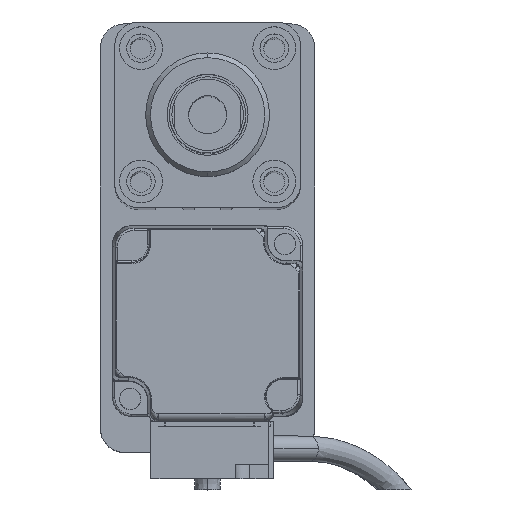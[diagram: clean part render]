
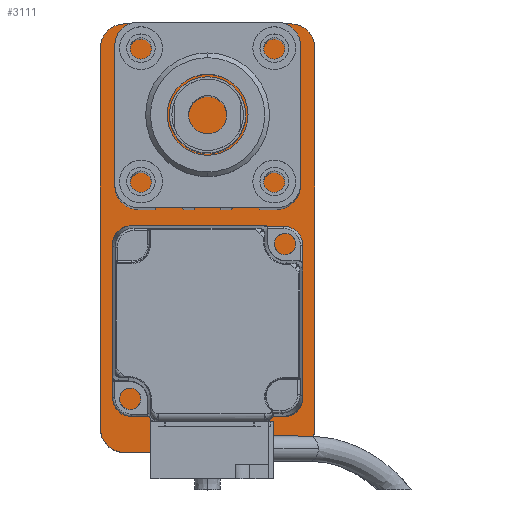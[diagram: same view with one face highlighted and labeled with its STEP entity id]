
A CAD part, top view. The second image highlights one B-rep face of the part: STEP entity #3111.
In plain terms, the highlighted planar face has unit normal (0, 0, 1).
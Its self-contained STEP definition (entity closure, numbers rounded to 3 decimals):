
#134 = AXIS2_PLACEMENT_3D ( 'NONE', #3558, #1413, #6197 ) ;
#794 = CIRCLE ( 'NONE', #134, 5. ) ;
#1098 = ORIENTED_EDGE ( 'NONE', *, *, #8918, .T. ) ;
#1413 = DIRECTION ( 'NONE',  ( 0., 0., 1. ) ) ;
#2014 = DIRECTION ( 'NONE',  ( 0., 0., 1. ) ) ;
#2433 = CARTESIAN_POINT ( 'NONE',  ( 22.5, -45., 10. ) ) ;
#3103 = ORIENTED_EDGE ( 'NONE', *, *, #13055, .T. ) ;
#3111 = ADVANCED_FACE ( 'NONE', ( #17493 ), #7075, .T. ) ;
#3318 = AXIS2_PLACEMENT_3D ( 'NONE', #14157, #16459, #18791 ) ;
#3558 = CARTESIAN_POINT ( 'NONE',  ( 17.5, 40., 10. ) ) ;
#4350 = LINE ( 'NONE', #22592, #26747 ) ;
#5048 = EDGE_CURVE ( 'NONE', #24966, #20049, #28591, .T. ) ;
#5374 = VERTEX_POINT ( 'NONE', #9892 ) ;
#5488 = CARTESIAN_POINT ( 'NONE',  ( -22.5, -40., 10. ) ) ;
#6197 = DIRECTION ( 'NONE',  ( 1., 0., 0. ) ) ;
#6727 = VECTOR ( 'NONE', #7703, 1000. ) ;
#7075 = PLANE ( 'NONE',  #11924 ) ;
#7421 = CIRCLE ( 'NONE', #3318, 5. ) ;
#7703 = DIRECTION ( 'NONE',  ( 0., -1., 0. ) ) ;
#8253 = CARTESIAN_POINT ( 'NONE',  ( -17.5, -45., 10. ) ) ;
#8480 = EDGE_CURVE ( 'NONE', #27529, #24966, #12913, .T. ) ;
#8918 = EDGE_CURVE ( 'NONE', #19668, #17117, #7421, .T. ) ;
#9892 = CARTESIAN_POINT ( 'NONE',  ( -17.5, 45., 10. ) ) ;
#10035 = CARTESIAN_POINT ( 'NONE',  ( -22.5, -45., 10. ) ) ;
#11242 = CARTESIAN_POINT ( 'NONE',  ( 22.5, 40., 10. ) ) ;
#11595 = VERTEX_POINT ( 'NONE', #23806 ) ;
#11692 = CARTESIAN_POINT ( 'NONE',  ( 22.5, -40., 10. ) ) ;
#11748 = VERTEX_POINT ( 'NONE', #11242 ) ;
#11924 = AXIS2_PLACEMENT_3D ( 'NONE', #25376, #2014, #16275 ) ;
#12913 = LINE ( 'NONE', #10035, #6727 ) ;
#13055 = EDGE_CURVE ( 'NONE', #11595, #5374, #4350, .T. ) ;
#13415 = DIRECTION ( 'NONE',  ( -1., 0., 0. ) ) ;
#14157 = CARTESIAN_POINT ( 'NONE',  ( 17.5, -40., 10. ) ) ;
#14622 = LINE ( 'NONE', #2433, #18575 ) ;
#14657 = ORIENTED_EDGE ( 'NONE', *, *, #8480, .T. ) ;
#14721 = AXIS2_PLACEMENT_3D ( 'NONE', #25814, #25519, #16323 ) ;
#15571 = CARTESIAN_POINT ( 'NONE',  ( -17.5, -40., 10. ) ) ;
#15859 = DIRECTION ( 'NONE',  ( 1., 0., 0. ) ) ;
#16177 = VECTOR ( 'NONE', #15859, 1000. ) ;
#16275 = DIRECTION ( 'NONE',  ( 1., 0., 0. ) ) ;
#16323 = DIRECTION ( 'NONE',  ( 1., 0., 0. ) ) ;
#16459 = DIRECTION ( 'NONE',  ( 0., 0., 1. ) ) ;
#17117 = VERTEX_POINT ( 'NONE', #11692 ) ;
#17493 = FACE_OUTER_BOUND ( 'NONE', #24884, .T. ) ;
#17748 = AXIS2_PLACEMENT_3D ( 'NONE', #15571, #22365, #26962 ) ;
#17890 = CARTESIAN_POINT ( 'NONE',  ( 22.5, -45., 10. ) ) ;
#18575 = VECTOR ( 'NONE', #25397, 1000. ) ;
#18791 = DIRECTION ( 'NONE',  ( 1., 0., 0. ) ) ;
#18813 = EDGE_CURVE ( 'NONE', #11748, #11595, #794, .T. ) ;
#19668 = VERTEX_POINT ( 'NONE', #23448 ) ;
#20049 = VERTEX_POINT ( 'NONE', #8253 ) ;
#20142 = LINE ( 'NONE', #17890, #16177 ) ;
#22365 = DIRECTION ( 'NONE',  ( 0., 0., 1. ) ) ;
#22592 = CARTESIAN_POINT ( 'NONE',  ( 22.5, 45., 10. ) ) ;
#22689 = EDGE_CURVE ( 'NONE', #20049, #19668, #20142, .T. ) ;
#23448 = CARTESIAN_POINT ( 'NONE',  ( 17.5, -45., 10. ) ) ;
#23806 = CARTESIAN_POINT ( 'NONE',  ( 17.5, 45., 10. ) ) ;
#23953 = ORIENTED_EDGE ( 'NONE', *, *, #22689, .T. ) ;
#24884 = EDGE_LOOP ( 'NONE', ( #25457, #25623, #3103, #27533, #14657, #28159, #23953, #1098 ) ) ;
#24966 = VERTEX_POINT ( 'NONE', #5488 ) ;
#25376 = CARTESIAN_POINT ( 'NONE',  ( 0., 0., 10. ) ) ;
#25395 = CIRCLE ( 'NONE', #14721, 5. ) ;
#25397 = DIRECTION ( 'NONE',  ( 0., 1., 0. ) ) ;
#25457 = ORIENTED_EDGE ( 'NONE', *, *, #28395, .T. ) ;
#25519 = DIRECTION ( 'NONE',  ( 0., 0., 1. ) ) ;
#25623 = ORIENTED_EDGE ( 'NONE', *, *, #18813, .T. ) ;
#25814 = CARTESIAN_POINT ( 'NONE',  ( -17.5, 40., 10. ) ) ;
#26747 = VECTOR ( 'NONE', #13415, 1000. ) ;
#26962 = DIRECTION ( 'NONE',  ( 1., 0., 0. ) ) ;
#27529 = VERTEX_POINT ( 'NONE', #29423 ) ;
#27533 = ORIENTED_EDGE ( 'NONE', *, *, #29549, .T. ) ;
#28159 = ORIENTED_EDGE ( 'NONE', *, *, #5048, .T. ) ;
#28395 = EDGE_CURVE ( 'NONE', #17117, #11748, #14622, .T. ) ;
#28591 = CIRCLE ( 'NONE', #17748, 5. ) ;
#29423 = CARTESIAN_POINT ( 'NONE',  ( -22.5, 40., 10. ) ) ;
#29549 = EDGE_CURVE ( 'NONE', #5374, #27529, #25395, .T. ) ;
